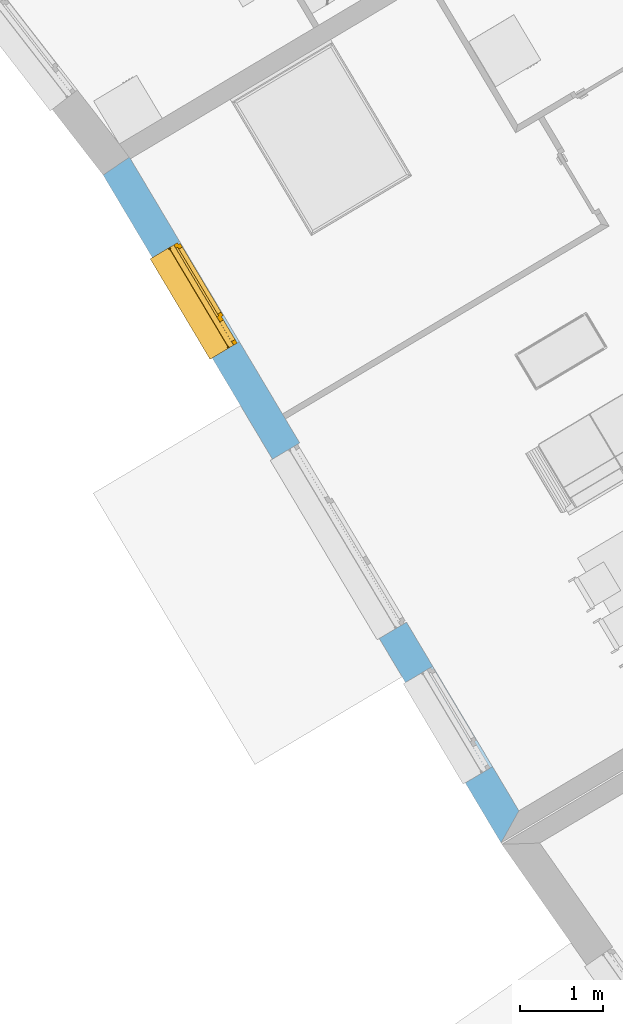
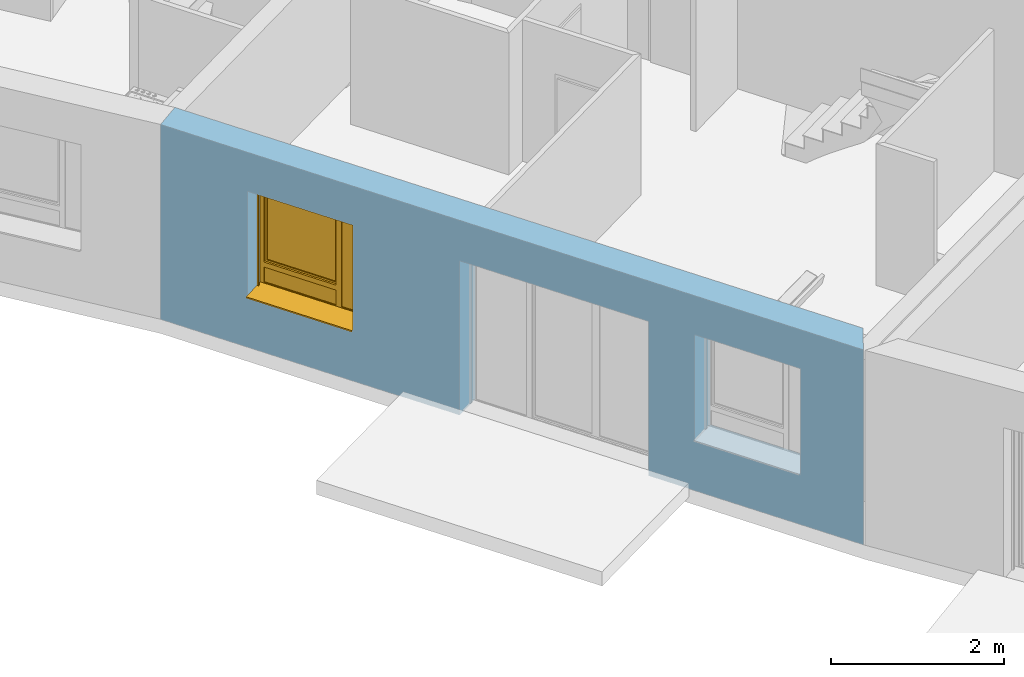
# One storey, part 39 of 195: 1 window, 3 openings, plus 1 element that does not belong to this part.
"""IFC2X3 building model written with IfcOpenShell, lengths in metres."""

from ifc_helpers import new_model, entity, si_unit, converted_unit, derived_unit, money_unit, direction, frame, origin_with_axes, place, context, subcontext, project, spatial, polyline, outline, extrude, open_shell, faceted_brep, surface_model, source, transform, mapped, material, layer, layer_set, layer_usage, type_object, element, fill, save


model = new_model("IFC2X3")

# Units and contexts
model_context = context("Model", 3, precision=1e-05, world=origin_with_axes(), true_north=direction((0.0, 1.0)))
body_context = subcontext(model_context, "Body", "Model", "MODEL_VIEW")
ifc_project = project(units=[si_unit("LENGTHUNIT", "METRE"), si_unit("AREAUNIT", "SQUARE_METRE"), si_unit("VOLUMEUNIT", "CUBIC_METRE"), converted_unit("PLANEANGLEUNIT", "DEGREE", entity("IfcPlaneAngleMeasure", 0.0174532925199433), si_unit("PLANEANGLEUNIT", "RADIAN"), dimensions=[0, 0, 0, 0, 0, 0, 0]), money_unit("CHF"), converted_unit("TIMEUNIT", "Year", entity("IfcTimeMeasure", 31557600.0), si_unit("TIMEUNIT", "SECOND"), dimensions=[0, 0, 1, 0, 0, 0, 0]), si_unit("MASSUNIT", "GRAM", prefix="KILO"), si_unit("THERMODYNAMICTEMPERATUREUNIT", "DEGREE_CELSIUS"), si_unit("LUMINOUSINTENSITYUNIT", "LUMEN"), si_unit("ENERGYUNIT", "JOULE", prefix="MEGA"), derived_unit("THERMALCONDUCTANCEUNIT", [(si_unit("POWERUNIT", "WATT"), 1), (si_unit("LENGTHUNIT", "METRE"), -1), (si_unit("THERMODYNAMICTEMPERATUREUNIT", "KELVIN"), -1)]), derived_unit("SPECIFICHEATCAPACITYUNIT", [(si_unit("ENERGYUNIT", "JOULE"), 1), (si_unit("MASSUNIT", "GRAM", prefix="KILO"), -1), (si_unit("THERMODYNAMICTEMPERATUREUNIT", "KELVIN"), -1)]), derived_unit("MASSDENSITYUNIT", [(si_unit("MASSUNIT", "GRAM", prefix="KILO"), 1), (si_unit("VOLUMEUNIT", "CUBIC_METRE"), -1)])], contexts=[model_context])

# Site, building, storey
site_placement = place(None, origin_with_axes())
site = spatial("IfcSite", under=ifc_project, at=site_placement, Name="Site", CompositionType="ELEMENT")
building_placement = place(site_placement, origin_with_axes())
building = spatial("IfcBuilding", under=site, at=building_placement, Name="Bâtiment", CompositionType="ELEMENT")
storey_placement = place(building_placement, origin_with_axes())
storey = spatial("IfcBuildingStorey", under=building, at=storey_placement, Name="rdc", CompositionType="ELEMENT", Elevation=0.0)

# Wall, openings, window
ifc_material_1 = material(Name="Parpaing 312445824")
ifc_layer_1 = layer(ifc_material_1, 0.22, ventilated="UNKNOWN")
ifc_material_2 = material(Name="Isolant styromousse 301821074")
ifc_layer_2 = layer(ifc_material_2, 0.16, ventilated="UNKNOWN")
ifc_layer_set = layer_set([ifc_layer_1, ifc_layer_2], Name="isol int 22+16 0836643197")
ifc_layer_usage = layer_usage(ifc_layer_set, "AXIS2", "NEGATIVE", 0.0)
wall_type = type_object("IfcWallType", Name="isol int 22+16 0836643197 380", PredefinedType="NOTDEFINED")
wall_placement = place(storey_placement, frame((9543.212814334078, -1055.206014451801, 57.7), z_axis=(0.0, 0.0, 1.0), x_axis=(-0.5118298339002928, 0.859086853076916, 0.0)))
wall = element("IfcWallStandardCase", 1, at=wall_placement, inside=storey, type_object=wall_type, material=ifc_layer_usage, Name="Mur-112", context=body_context, shape_type="SweptSolid", body=[
    extrude(outline(polyline([(0.2199999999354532, -0.3800000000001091), (9.335159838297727, -0.3799999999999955), (9.311906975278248, 0.0), (0.0, 0.0), (0.2199999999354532, -0.3800000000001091)])), origin_with_axes(), (0.0, 0.0, 1.0), 2.75),
])
opening_1_placement = place(wall_placement, frame((1.536079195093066, 0.0, 0.7000000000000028), z_axis=(0.0, 0.0, 1.0), x_axis=(1.0, 0.0, 0.0)))
element("IfcOpeningElement", 2, at=opening_1_placement, cuts=wall, Name="Fen-045", context=body_context, shape_type="Brep", body=[
    faceted_brep([(0.7000000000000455, -0.4800000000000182, 1.5), (-0.7000000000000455, -0.4800000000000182, 1.5), (-0.6999999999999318, -4.475503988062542, 1.5), (0.7000000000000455, -4.475503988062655, 1.5), (0.7000000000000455, -0.4800000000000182, 1.700000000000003), (-0.7000000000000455, -0.4800000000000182, 1.700000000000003), (-0.7000000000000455, -0.2999999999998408, 1.5), (-0.6999999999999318, -0.2999999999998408, 0.0), (-0.6999999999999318, -4.475503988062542, 0.0), (0.7000000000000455, -4.475503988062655, 0.0), (0.7000000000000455, -0.2999999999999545, 1.5), (0.7000000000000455, -0.3000000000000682, 0.0), (0.6999999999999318, -0.2200000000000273, 1.5), (0.6999999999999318, -0.2200000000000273, 1.700000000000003), (-0.7000000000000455, -0.2200000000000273, 1.700000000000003), (-0.7000000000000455, -0.2200000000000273, 1.5), (-0.7000000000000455, 4.095503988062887, 1.5), (-0.7000000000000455, 4.095503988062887, 0.0), (0.7000000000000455, 4.095503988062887, 0.0), (0.7000000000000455, 4.095503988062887, 1.5)], [[[0, 1, 2, 3]], [[1, 0, 4, 5]], [[1, 6, 7, 8, 2]], [[2, 8, 9, 3]], [[10, 0, 3, 9, 11]], [[0, 10, 12, 13, 4]], [[14, 5, 4, 13]], [[6, 1, 5, 14, 15]], [[6, 15, 16, 17, 7]], [[7, 11, 9, 8]], [[12, 10, 11, 18, 19]], [[12, 15, 14, 13]], [[15, 12, 19, 16]], [[19, 18, 17, 16]], [[11, 7, 17, 18]]]),
])
opening_2_placement = place(wall_placement, frame((7.460538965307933, 0.0, 0.7000000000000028), z_axis=(0.0, 0.0, 1.0), x_axis=(1.0, 0.0, 0.0)))
opening_2 = element("IfcOpeningElement", 3, at=opening_2_placement, cuts=wall, Name="Fen-045", context=body_context, shape_type="Brep", body=[
    faceted_brep([(0.7000000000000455, -0.4800000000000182, 1.5), (-0.6999999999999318, -0.4800000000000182, 1.5), (-0.6999999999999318, -4.475503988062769, 1.5), (0.7000000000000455, -4.475503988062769, 1.5), (0.7000000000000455, -0.4800000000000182, 1.700000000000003), (-0.6999999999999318, -0.4800000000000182, 1.700000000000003), (-0.6999999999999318, -0.2999999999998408, 1.5), (-0.6999999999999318, -0.2999999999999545, 0.0), (-0.6999999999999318, -4.475503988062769, 0.0), (0.7000000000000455, -4.475503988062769, 0.0), (0.7000000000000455, -0.2999999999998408, 1.5), (0.7000000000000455, -0.2999999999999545, 0.0), (0.6999999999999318, -0.2199999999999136, 1.5), (0.6999999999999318, -0.2199999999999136, 1.700000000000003), (-0.7000000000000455, -0.2200000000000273, 1.700000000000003), (-0.7000000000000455, -0.2200000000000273, 1.5), (-0.7000000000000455, 4.095503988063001, 1.5), (-0.7000000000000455, 4.095503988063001, 0.0), (0.7000000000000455, 4.095503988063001, 0.0), (0.7000000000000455, 4.095503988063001, 1.5)], [[[0, 1, 2, 3]], [[1, 0, 4, 5]], [[1, 6, 7, 8, 2]], [[2, 8, 9, 3]], [[10, 0, 3, 9, 11]], [[0, 10, 12, 13, 4]], [[14, 5, 4, 13]], [[6, 1, 5, 14, 15]], [[6, 15, 16, 17, 7]], [[7, 11, 9, 8]], [[12, 10, 11, 18, 19]], [[12, 15, 14, 13]], [[15, 12, 19, 16]], [[19, 18, 17, 16]], [[11, 7, 17, 18]]]),
])
opening_3_placement = place(wall_placement, frame((4.099942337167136, 0.0, 0.0), z_axis=(0.0, 0.0, 1.0), x_axis=(1.0, 0.0, 0.0)))
element("IfcOpeningElement", 4, at=opening_3_placement, cuts=wall, Name="Fen-045", context=body_context, shape_type="Brep", body=[
    faceted_brep([(1.250000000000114, -0.4800000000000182, 2.18), (-1.25, -0.4800000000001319, 2.18), (-1.25, -4.475503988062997, 2.18), (1.250000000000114, -4.475503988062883, 2.18), (1.250000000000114, -0.4800000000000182, 2.380000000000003), (-1.25, -0.4800000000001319, 2.380000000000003), (-1.25, -0.2999999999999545, 2.18), (-1.249999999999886, -0.3000000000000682, 0.0), (-1.25, -4.475503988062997, 0.0), (1.250000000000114, -4.475503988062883, 0.0), (1.250000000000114, -0.2999999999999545, 2.18), (1.250000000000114, -0.3000000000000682, 0.0), (1.25, -0.2200000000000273, 2.18), (1.25, -0.2200000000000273, 2.380000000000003), (-1.25, -0.2200000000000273, 2.380000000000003), (-1.25, -0.2200000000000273, 2.18), (-1.25, 4.095503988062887, 2.18), (-1.25, 4.095503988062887, 0.0), (1.25, 4.095503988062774, 0.0), (1.25, 4.095503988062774, 2.18)], [[[0, 1, 2, 3]], [[1, 0, 4, 5]], [[1, 6, 7, 8, 2]], [[2, 8, 9, 3]], [[10, 0, 3, 9, 11]], [[0, 10, 12, 13, 4]], [[4, 13, 14, 5]], [[6, 1, 5, 14, 15]], [[6, 15, 16, 17, 7]], [[7, 11, 9, 8]], [[12, 10, 11, 18, 19]], [[12, 15, 14, 13]], [[15, 12, 19, 16]], [[19, 18, 17, 16]], [[11, 7, 17, 18]]]),
])
window_style = type_object("IfcWindowStyle", Name="Fenêtre variable 27", ConstructionType="NOTDEFINED", OperationType="TRIPLE_PANEL_RIGHT", ParameterTakesPrecedence=False, Sizeable=False)
shared_shape = source(origin_with_axes(), body_context, "Body", "SurfaceModel", [
    surface_model("IfcShellBasedSurfaceModel", [(-0.7, -0.05100000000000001, 0.05), (-0.7, -0.05100000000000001, 0.04), (0.7, -0.05100000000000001, 0.04000000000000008), (0.7, -0.05100000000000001, 0.05000000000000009), (-0.7, -0.3799999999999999, 0.02899999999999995), (0.7, -0.3799999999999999, 0.02900000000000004), (-0.7, -0.3799999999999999, 0.008999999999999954), (0.7, -0.3799999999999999, 0.00900000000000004), (-0.7, -0.3699999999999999, 0.01899999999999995), (0.7, -0.3699999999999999, 0.01900000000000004)], [open_shell([[[0, 1, 2, 3]], [[1, 4, 5, 2]], [[4, 6, 7, 5]], [[6, 8, 9, 7]]])]),
    faceted_brep([(-0.7, -0.13, 1.7), (-0.697, -0.13, 1.7), (-0.697, 0.13, 1.7), (-0.7, 0.13, 1.7), (-0.7, -0.13, 1.5), (-0.697, -0.13, 1.5), (-0.697, 0.13, 1.5), (-0.7, 0.13, 1.5)], [[[0, 1, 2, 3]], [[4, 5, 1, 0]], [[1, 5, 6, 2]], [[3, 2, 6, 7]], [[0, 3, 7, 4]], [[7, 6, 5, 4]]]),
    faceted_brep([(0.6970000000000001, -0.1299999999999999, 1.7), (0.7000000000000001, -0.1299999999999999, 1.7), (0.7000000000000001, 0.1300000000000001, 1.7), (0.6970000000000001, 0.1300000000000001, 1.7), (0.6970000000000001, -0.1299999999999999, 1.5), (0.7000000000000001, -0.1299999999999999, 1.5), (0.7000000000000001, 0.1300000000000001, 1.5), (0.6970000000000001, 0.1300000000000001, 1.5)], [[[0, 1, 2, 3]], [[4, 5, 1, 0]], [[1, 5, 6, 2]], [[3, 2, 6, 7]], [[0, 3, 7, 4]], [[7, 6, 5, 4]]]),
    faceted_brep([(-0.697, -0.13, 1.5), (0.697, -0.1299999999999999, 1.5), (0.697, -0.1299999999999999, 1.7), (-0.697, -0.13, 1.7), (-0.697, -0.127, 1.5), (0.697, -0.1269999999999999, 1.5), (0.697, -0.1269999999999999, 1.697), (0.697, 0.1270000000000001, 1.697), (0.697, 0.1270000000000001, 1.503), (0.697, -0.1079999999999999, 1.503), (0.697, -0.1079999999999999, 1.5), (0.697, 0.1300000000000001, 1.5), (0.697, 0.1300000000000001, 1.7), (-0.697, 0.13, 1.7), (-0.697, 0.13, 1.5), (-0.697, -0.108, 1.5), (-0.697, -0.108, 1.503), (-0.697, 0.127, 1.503), (-0.697, 0.127, 1.697), (-0.697, -0.127, 1.697)], [[[0, 1, 2, 3]], [[4, 5, 1, 0]], [[1, 5, 6, 7, 8, 9, 10, 11, 12, 2]], [[3, 2, 12, 13]], [[0, 3, 13, 14, 15, 16, 17, 18, 19, 4]], [[19, 6, 5, 4]], [[18, 7, 6, 19]], [[17, 8, 7, 18]], [[16, 9, 8, 17]], [[15, 10, 9, 16]], [[14, 11, 10, 15]], [[13, 12, 11, 14]]]),
    faceted_brep([(-0.694, -0.08075423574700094, 1.585760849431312), (-0.694, -0.08200000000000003, 1.6), (-0.694, -0.0807542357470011, 1.614239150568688), (-0.694, -0.07705479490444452, 1.628045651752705), (-0.694, -0.07101408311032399, 1.641), (-0.694, -0.06281564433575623, 1.652708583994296), (-0.694, -0.05270858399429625, 1.662815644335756), (-0.694, -0.04100000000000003, 1.671014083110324), (-0.694, -0.02804565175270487, 1.677054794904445), (-0.694, -0.01423915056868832, 1.680754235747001), (-0.694, 0.0, 1.682), (-0.694, 0.01423915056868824, 1.680754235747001), (-0.694, 0.02804565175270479, 1.677054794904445), (-0.694, 0.04099999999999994, 1.671014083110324), (-0.694, 0.05270858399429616, 1.662815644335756), (-0.694, 0.06281564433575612, 1.652708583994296), (-0.694, 0.07101408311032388, 1.641), (-0.694, 0.0770547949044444, 1.628045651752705), (-0.694, 0.08075423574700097, 1.614239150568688), (-0.694, 0.0819999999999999, 1.6), (-0.694, 0.08075423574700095, 1.585760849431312), (-0.694, 0.07705479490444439, 1.571954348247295), (-0.694, 0.07101408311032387, 1.559), (-0.694, 0.06281564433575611, 1.547291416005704), (-0.694, 0.05270858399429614, 1.537184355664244), (-0.694, 0.04099999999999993, 1.528985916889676), (-0.694, 0.02804565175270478, 1.522945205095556), (-0.694, 0.01423915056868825, 1.519245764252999), (-0.694, 0.0, 1.518), (-0.694, -0.01423915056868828, 1.519245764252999), (-0.694, -0.02804565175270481, 1.522945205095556), (-0.694, -0.04099999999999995, 1.528985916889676), (-0.694, -0.05270858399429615, 1.537184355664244), (-0.694, -0.06281564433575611, 1.547291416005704), (-0.694, -0.07101408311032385, 1.559), (-0.694, -0.07705479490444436, 1.571954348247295), (0.694, -0.08075423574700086, 1.585760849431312), (0.694, -0.08199999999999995, 1.6), (0.694, -0.08075423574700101, 1.614239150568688), (0.694, -0.07705479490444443, 1.628045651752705), (0.694, -0.07101408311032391, 1.641), (0.694, -0.06281564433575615, 1.652708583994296), (0.694, -0.05270858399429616, 1.662815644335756), (0.694, -0.04099999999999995, 1.671014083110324), (0.694, -0.02804565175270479, 1.677054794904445), (0.694, -0.01423915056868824, 1.680754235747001), (0.694, 0.0, 1.682), (0.694, 0.01423915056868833, 1.680754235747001), (0.694, 0.02804565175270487, 1.677054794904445), (0.694, 0.04100000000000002, 1.671014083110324), (0.694, 0.05270858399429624, 1.662815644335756), (0.694, 0.0628156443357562, 1.652708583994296), (0.694, 0.07101408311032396, 1.641), (0.694, 0.07705479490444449, 1.628045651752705), (0.694, 0.08075423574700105, 1.614239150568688), (0.694, 0.08199999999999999, 1.6), (0.694, 0.08075423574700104, 1.585760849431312), (0.694, 0.07705479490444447, 1.571954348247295), (0.694, 0.07101408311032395, 1.559), (0.694, 0.06281564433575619, 1.547291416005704), (0.694, 0.05270858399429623, 1.537184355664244), (0.694, 0.04100000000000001, 1.528985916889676), (0.694, 0.02804565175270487, 1.522945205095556), (0.694, 0.01423915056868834, 1.519245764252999), (0.694, 0.0, 1.518), (0.694, -0.0142391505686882, 1.519245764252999), (0.694, -0.02804565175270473, 1.522945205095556), (0.694, -0.04099999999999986, 1.528985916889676), (0.694, -0.05270858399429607, 1.537184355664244), (0.694, -0.06281564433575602, 1.547291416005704), (0.694, -0.07101408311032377, 1.559), (0.694, -0.07705479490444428, 1.571954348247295)], [[[0, 1, 2, 3, 4, 5, 6, 7, 8, 9, 10, 11, 12, 13, 14, 15, 16, 17, 18, 19, 20, 21, 22, 23, 24, 25, 26, 27, 28, 29, 30, 31, 32, 33, 34, 35]], [[0, 36, 37, 1]], [[1, 37, 38, 2]], [[2, 38, 39, 3]], [[3, 39, 40, 4]], [[4, 40, 41, 5]], [[5, 41, 42, 6]], [[6, 42, 43, 7]], [[7, 43, 44, 8]], [[8, 44, 45, 9]], [[9, 45, 46, 10]], [[10, 46, 47, 11]], [[11, 47, 48, 12]], [[12, 48, 49, 13]], [[13, 49, 50, 14]], [[14, 50, 51, 15]], [[15, 51, 52, 16]], [[16, 52, 53, 17]], [[17, 53, 54, 18]], [[18, 54, 55, 19]], [[19, 55, 56, 20]], [[20, 56, 57, 21]], [[21, 57, 58, 22]], [[22, 58, 59, 23]], [[23, 59, 60, 24]], [[24, 60, 61, 25]], [[25, 61, 62, 26]], [[26, 62, 63, 27]], [[27, 63, 64, 28]], [[28, 64, 65, 29]], [[29, 65, 66, 30]], [[30, 66, 67, 31]], [[31, 67, 68, 32]], [[32, 68, 69, 33]], [[33, 69, 70, 34]], [[34, 70, 71, 35]], [[35, 71, 36, 0]], [[36, 71, 70, 69, 68, 67, 66, 65, 64, 63, 62, 61, 60, 59, 58, 57, 56, 55, 54, 53, 52, 51, 50, 49, 48, 47, 46, 45, 44, 43, 42, 41, 40, 39, 38, 37]]]),
    faceted_brep([(0.7, -0.105, 0.03), (0.7, -0.1049999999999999, 1.5), (0.7, -0.1299999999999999, 1.5), (0.7, -0.13, 0.03), (0.6749999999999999, -0.105, 0.03), (0.6749999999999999, -0.1049999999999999, 1.5), (0.6749999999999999, -0.1079999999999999, 1.5), (0.697, -0.1079999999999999, 1.5), (0.697, -0.1269999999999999, 1.5), (0.6749999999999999, -0.1269999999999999, 1.5), (0.6749999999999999, -0.1299999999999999, 1.5), (0.6749999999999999, -0.13, 0.03), (0.6749999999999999, -0.127, 0.03), (0.697, -0.127, 0.03), (0.697, -0.108, 0.03), (0.6749999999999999, -0.108, 0.03)], [[[0, 1, 2, 3]], [[4, 5, 1, 0]], [[1, 5, 6, 7, 8, 9, 10, 2]], [[3, 2, 10, 11]], [[0, 3, 11, 12, 13, 14, 15, 4]], [[15, 6, 5, 4]], [[14, 7, 6, 15]], [[13, 8, 7, 14]], [[12, 9, 8, 13]], [[11, 10, 9, 12]]]),
    faceted_brep([(-0.7, -0.105, 0.03), (-0.7, -0.13, 0.03), (-0.7, -0.1299999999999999, 1.5), (-0.7, -0.1049999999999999, 1.5), (-0.6749999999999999, -0.105, 0.03), (-0.6749999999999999, -0.108, 0.03), (-0.697, -0.108, 0.03), (-0.697, -0.127, 0.03), (-0.6749999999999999, -0.127, 0.03), (-0.6749999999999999, -0.13, 0.03), (-0.6749999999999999, -0.1299999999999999, 1.5), (-0.6749999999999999, -0.1269999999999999, 1.5), (-0.697, -0.1269999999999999, 1.5), (-0.697, -0.1079999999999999, 1.5), (-0.6749999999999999, -0.1079999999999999, 1.5), (-0.6749999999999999, -0.1049999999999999, 1.5)], [[[0, 1, 2, 3]], [[0, 4, 5, 6, 7, 8, 9, 1]], [[1, 9, 10, 2]], [[3, 2, 10, 11, 12, 13, 14, 15]], [[4, 0, 3, 15]], [[5, 4, 15, 14]], [[6, 5, 14, 13]], [[7, 6, 13, 12]], [[8, 7, 12, 11]], [[9, 8, 11, 10]]]),
    surface_model("IfcShellBasedSurfaceModel", [(-0.697, -0.115, 1.6), (0.697, -0.1149999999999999, 1.6), (0.697, -0.1199999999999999, 1.6), (-0.697, -0.12, 1.6), (-0.697, -0.115, 1.6), (-0.697, -0.12, 1.6), (0.697, -0.12, 1.6), (0.697, -0.1149999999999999, 1.6)], [open_shell([[[0, 1, 2, 3]], [[4, 5, 6, 7]]])]),
    faceted_brep([(-0.697, -0.115, 1.6), (0.697, -0.1149999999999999, 1.6), (0.697, -0.1166666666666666, 1.583333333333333), (-0.697, -0.1166666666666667, 1.583333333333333), (-0.697, -0.12, 1.6), (0.697, -0.1199999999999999, 1.6), (0.697, -0.1216666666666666, 1.583333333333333), (0.697, -0.1216666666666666, 1.566666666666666), (0.697, -0.1199999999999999, 1.55), (0.697, -0.1149999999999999, 1.55), (0.697, -0.1166666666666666, 1.566666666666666), (-0.697, -0.1166666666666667, 1.566666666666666), (-0.697, -0.115, 1.55), (-0.697, -0.12, 1.55), (-0.697, -0.1216666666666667, 1.566666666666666), (-0.697, -0.1216666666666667, 1.583333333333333)], [[[0, 1, 2, 3]], [[4, 5, 1, 0]], [[1, 5, 6, 7, 8, 9, 10, 2]], [[3, 2, 10, 11]], [[0, 3, 11, 12, 13, 14, 15, 4]], [[15, 6, 5, 4]], [[14, 7, 6, 15]], [[13, 8, 7, 14]], [[12, 9, 8, 13]], [[11, 10, 9, 12]]]),
    faceted_brep([(-0.697, -0.115, 1.55), (0.697, -0.1149999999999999, 1.55), (0.697, -0.1166666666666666, 1.533333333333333), (-0.697, -0.1166666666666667, 1.533333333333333), (-0.697, -0.12, 1.55), (0.697, -0.1199999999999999, 1.55), (0.697, -0.1216666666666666, 1.533333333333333), (0.697, -0.1216666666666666, 1.516666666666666), (0.697, -0.1199999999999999, 1.5), (0.697, -0.1149999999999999, 1.5), (0.697, -0.1166666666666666, 1.516666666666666), (-0.697, -0.1166666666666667, 1.516666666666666), (-0.697, -0.115, 1.5), (-0.697, -0.12, 1.5), (-0.697, -0.1216666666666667, 1.516666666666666), (-0.697, -0.1216666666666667, 1.533333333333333)], [[[0, 1, 2, 3]], [[4, 5, 1, 0]], [[1, 5, 6, 7, 8, 9, 10, 2]], [[3, 2, 10, 11]], [[0, 3, 11, 12, 13, 14, 15, 4]], [[15, 6, 5, 4]], [[14, 7, 6, 15]], [[13, 8, 7, 14]], [[12, 9, 8, 13]], [[11, 10, 9, 12]]]),
    faceted_brep([(-0.6749999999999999, 0.0, 1.45), (-0.7, 0.0, 1.45), (-0.7, -0.05000000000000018, 1.45), (-0.6499999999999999, -0.05000000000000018, 1.45), (-0.6499999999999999, -0.02500000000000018, 1.45), (-0.6749999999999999, -0.02500000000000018, 1.45), (-0.6749999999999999, 0.0, 0.3099999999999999), (-0.6499999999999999, 0.0, 0.3099999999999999), (-0.6499999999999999, 0.0, 0.265), (-0.6499999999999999, 0.0, 0.05000000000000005), (-0.7, 0.0, 0.05000000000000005), (-0.7, -0.05000000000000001, 0.05000000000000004), (-0.6499999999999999, -0.05000000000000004, 0.335), (-0.6499999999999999, -0.05000000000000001, 0.05000000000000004), (-0.6499999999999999, -0.05000000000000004, 0.265), (-0.6499999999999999, -0.02500000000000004, 0.335), (-0.6499999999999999, -0.02500000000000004, 0.3099999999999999), (-0.6749999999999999, -0.02500000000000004, 0.3099999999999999)], [[[0, 1, 2, 3, 4, 5]], [[6, 7, 8, 9, 10, 1, 0]], [[1, 10, 11, 2]], [[12, 3, 2, 11, 13, 14]], [[4, 3, 12, 15]], [[15, 16, 17, 5, 4]], [[5, 17, 6, 0]], [[6, 17, 16, 7]], [[16, 15, 12, 14, 8, 7]], [[9, 8, 14, 13]], [[10, 9, 13, 11]]]),
    faceted_brep([(0.3068894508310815, -0.02500000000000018, 1.45), (0.3068894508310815, -0.05000000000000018, 1.45), (0.3768894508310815, -0.05000000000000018, 1.45), (0.3768894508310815, 0.0, 1.45), (0.3318894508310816, 0.0, 1.45), (0.3318894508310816, -0.02500000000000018, 1.45), (0.3068894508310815, -0.02500000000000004, 0.335), (0.3068894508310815, -0.05000000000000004, 0.335), (0.3068894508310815, -0.05000000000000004, 0.265), (0.3068894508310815, -0.05000000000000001, 0.05000000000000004), (0.3768894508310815, -0.05000000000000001, 0.05000000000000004), (0.3768894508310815, 0.0, 0.05000000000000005), (0.3318894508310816, 0.0, 0.3099999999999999), (0.3068894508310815, 0.0, 0.05000000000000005), (0.3068894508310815, 0.0, 0.265), (0.3068894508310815, 0.0, 0.3099999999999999), (0.3318894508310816, -0.02500000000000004, 0.3099999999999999), (0.3068894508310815, -0.02500000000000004, 0.3099999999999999)], [[[0, 1, 2, 3, 4, 5]], [[6, 7, 1, 0]], [[8, 9, 10, 2, 1, 7]], [[11, 3, 2, 10]], [[12, 4, 3, 11, 13, 14, 15]], [[12, 16, 5, 4]], [[5, 16, 17, 6, 0]], [[17, 15, 14, 8, 7, 6]], [[14, 13, 9, 8]], [[13, 11, 10, 9]], [[15, 17, 16, 12]]]),
    faceted_brep([(-0.6499999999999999, -0.02500000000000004, 0.335), (-0.6499999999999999, -0.05000000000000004, 0.335), (0.3068894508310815, -0.05000000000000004, 0.335), (0.3068894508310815, -0.02500000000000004, 0.335), (-0.6499999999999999, -0.02500000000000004, 0.3099999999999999), (-0.6499999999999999, 0.0, 0.3099999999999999), (-0.6499999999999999, 0.0, 0.265), (-0.6499999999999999, -0.05000000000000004, 0.265), (0.3068894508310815, -0.05000000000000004, 0.265), (0.3068894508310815, -0.02500000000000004, 0.3099999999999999), (0.3068894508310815, 0.0, 0.265), (0.3068894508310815, 0.0, 0.3099999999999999)], [[[0, 1, 2, 3]], [[4, 5, 6, 7, 1, 0]], [[2, 1, 7, 8]], [[9, 3, 2, 8, 10, 11]], [[9, 4, 0, 3]], [[5, 4, 9, 11]], [[11, 10, 6, 5]], [[6, 10, 8, 7]]]),
    faceted_brep([(-0.6749999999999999, 0.0, 1.45), (-0.7, 0.0, 1.45), (-0.7, 0.0, 1.5), (0.7, 0.0, 1.5), (0.7, 0.0, 1.45), (0.6499999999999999, 0.0, 1.45), (0.3768894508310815, 0.0, 1.45), (0.3318894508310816, 0.0, 1.45), (0.3318894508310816, 0.0, 1.475), (-0.6749999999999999, 0.0, 1.475), (-0.6749999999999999, -0.02500000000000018, 1.45), (-0.6499999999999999, -0.02500000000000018, 1.45), (-0.6499999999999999, -0.05000000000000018, 1.45), (-0.7, -0.05000000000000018, 1.45), (-0.7, -0.05000000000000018, 1.5), (0.7, -0.05000000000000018, 1.5), (0.7, -0.05000000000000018, 1.45), (0.6499999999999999, -0.05000000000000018, 1.45), (0.3768894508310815, -0.05000000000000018, 1.45), (0.3318894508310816, -0.02500000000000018, 1.45), (0.3068894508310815, -0.05000000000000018, 1.45), (0.3068894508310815, -0.02500000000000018, 1.45), (0.3318894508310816, -0.02500000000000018, 1.475), (-0.6749999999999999, -0.02500000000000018, 1.475)], [[[0, 1, 2, 3, 4, 5, 6, 7, 8, 9]], [[10, 11, 12, 13, 1, 0]], [[2, 1, 13, 14]], [[3, 2, 14, 15]], [[4, 3, 15, 16]], [[5, 4, 16, 17]], [[6, 5, 17, 18]], [[19, 7, 6, 18, 20, 21]], [[7, 19, 22, 8]], [[8, 22, 23, 9]], [[9, 23, 10, 0]], [[21, 11, 10, 23, 22, 19]], [[21, 20, 12, 11]], [[18, 17, 16, 15, 14, 13, 12, 20]]]),
    faceted_brep([(0.6499999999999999, -0.05000000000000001, 0.05), (0.6499999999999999, 0.0, 0.05000000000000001), (0.7, 0.0, 0.05000000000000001), (0.7, -0.05000000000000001, 0.05), (0.6499999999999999, -0.05000000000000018, 1.45), (0.6499999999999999, 0.0, 1.45), (0.7, 0.0, 1.45), (0.7, -0.05000000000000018, 1.45)], [[[0, 1, 2, 3]], [[4, 5, 1, 0]], [[1, 5, 6, 2]], [[3, 2, 6, 7]], [[0, 3, 7, 4]], [[7, 6, 5, 4]]]),
    faceted_brep([(-0.6499999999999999, -0.05000000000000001, 0.05), (-0.6499999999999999, 0.0, 0.05000000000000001), (-0.7, 0.0, 0.05000000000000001), (-0.7, -0.05000000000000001, 0.05), (0.3068894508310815, -0.05000000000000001, 0.05), (0.3068894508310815, 0.0, 0.05000000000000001), (0.3768894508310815, 0.0, 0.05000000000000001), (0.6499999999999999, 0.0, 0.05000000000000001), (0.7, 0.0, 0.05000000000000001), (0.7, 0.0, 0.0), (-0.7, 0.0, 0.0), (-0.7, -0.05, 0.0), (0.7, -0.05, 0.0), (0.7, -0.05000000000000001, 0.05), (0.6499999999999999, -0.05000000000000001, 0.05), (0.3768894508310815, -0.05000000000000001, 0.05)], [[[0, 1, 2, 3]], [[4, 5, 1, 0]], [[1, 5, 6, 7, 8, 9, 10, 2]], [[3, 2, 10, 11]], [[0, 3, 11, 12, 13, 14, 15, 4]], [[15, 6, 5, 4]], [[14, 7, 6, 15]], [[13, 8, 7, 14]], [[12, 9, 8, 13]], [[11, 10, 9, 12]]]),
    faceted_brep([(-0.625, -0.02500000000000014, 1.425), (-0.625, 0.02499999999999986, 1.425), (-0.6749999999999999, 0.02499999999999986, 1.425), (-0.6749999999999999, -0.02500000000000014, 1.425), (-0.625, -0.02500000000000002, 0.3599999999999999), (-0.625, 0.02499999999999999, 0.3599999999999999), (-0.6749999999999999, 0.02499999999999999, 0.3599999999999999), (-0.6749999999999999, -0.02500000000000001, 0.3599999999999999)], [[[0, 1, 2, 3]], [[4, 5, 1, 0]], [[1, 5, 6, 2]], [[3, 2, 6, 7]], [[0, 3, 7, 4]], [[7, 6, 5, 4]]]),
    faceted_brep([(0.2818894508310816, -0.02500000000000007, 0.3599999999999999), (0.2818894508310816, 0.02499999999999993, 0.3599999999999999), (0.3318894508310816, 0.02499999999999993, 0.3599999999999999), (0.3318894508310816, -0.02500000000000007, 0.3599999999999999), (0.2818894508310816, -0.0250000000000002, 1.425), (0.2818894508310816, 0.0249999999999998, 1.425), (0.3318894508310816, 0.0249999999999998, 1.425), (0.3318894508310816, -0.0250000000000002, 1.425)], [[[0, 1, 2, 3]], [[4, 5, 1, 0]], [[1, 5, 6, 2]], [[3, 2, 6, 7]], [[0, 3, 7, 4]], [[7, 6, 5, 4]]]),
    faceted_brep([(0.3318894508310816, -0.02500000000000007, 0.3099999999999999), (0.3318894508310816, 0.02499999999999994, 0.3099999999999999), (0.3318894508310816, 0.02499999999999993, 0.3599999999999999), (0.3318894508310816, -0.02500000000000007, 0.3599999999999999), (-0.6749999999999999, -0.025, 0.3099999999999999), (-0.6749999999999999, 0.02499999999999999, 0.3099999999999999), (-0.6749999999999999, 0.02499999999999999, 0.3599999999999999), (-0.625, 0.02499999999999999, 0.3599999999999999), (0.2818894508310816, 0.02499999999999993, 0.3599999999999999), (0.2818894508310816, -0.02500000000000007, 0.3599999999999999), (-0.625, -0.02500000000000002, 0.3599999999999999), (-0.6749999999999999, -0.02500000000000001, 0.3599999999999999)], [[[0, 1, 2, 3]], [[4, 5, 1, 0]], [[1, 5, 6, 7, 8, 2]], [[3, 2, 8, 9]], [[0, 3, 9, 10, 11, 4]], [[11, 6, 5, 4]], [[10, 7, 6, 11]], [[9, 8, 7, 10]]]),
    faceted_brep([(-0.6749999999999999, -0.02500000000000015, 1.475), (-0.6749999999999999, 0.02499999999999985, 1.475), (-0.6749999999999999, 0.02499999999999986, 1.425), (-0.6749999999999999, -0.02500000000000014, 1.425), (0.3318894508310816, -0.02500000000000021, 1.475), (0.3318894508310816, 0.02499999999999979, 1.475), (0.3318894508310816, 0.0249999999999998, 1.425), (0.2818894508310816, 0.0249999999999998, 1.425), (-0.625, 0.02499999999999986, 1.425), (-0.625, -0.02500000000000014, 1.425), (0.2818894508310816, -0.0250000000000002, 1.425), (0.3318894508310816, -0.0250000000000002, 1.425)], [[[0, 1, 2, 3]], [[4, 5, 1, 0]], [[1, 5, 6, 7, 8, 2]], [[3, 2, 8, 9]], [[0, 3, 9, 10, 11, 4]], [[11, 6, 5, 4]], [[10, 7, 6, 11]], [[9, 8, 7, 10]]]),
    surface_model("IfcShellBasedSurfaceModel", [(-0.625, -0.01000000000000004, 0.3599999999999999), (0.2818894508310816, -0.01000000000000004, 0.3599999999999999), (0.2818894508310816, -0.01000000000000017, 1.425), (-0.625, -0.01000000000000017, 1.425)], [open_shell([[[0, 1, 2, 3]]])]),
    surface_model("IfcShellBasedSurfaceModel", [(-0.625, 0.009999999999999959, 0.3599999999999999), (-0.625, 0.00999999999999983, 1.425), (0.2818894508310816, 0.00999999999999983, 1.425), (0.2818894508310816, 0.009999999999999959, 0.3599999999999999)], [open_shell([[[0, 1, 2, 3]]])]),
    surface_model("IfcShellBasedSurfaceModel", [(0.3768894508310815, -0.035, 0.05), (0.65, -0.035, 0.05), (0.65, -0.03500000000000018, 1.45), (0.3768894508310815, -0.03500000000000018, 1.45)], [open_shell([[[0, 1, 2, 3]]])]),
    surface_model("IfcShellBasedSurfaceModel", [(0.3768894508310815, -0.015, 0.05), (0.3768894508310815, -0.01500000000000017, 1.45), (0.65, -0.01500000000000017, 1.45), (0.65, -0.015, 0.05)], [open_shell([[[0, 1, 2, 3]]])]),
    surface_model("IfcShellBasedSurfaceModel", [(-0.6499999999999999, -0.035, 0.05), (0.3068894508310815, -0.035, 0.05), (0.3068894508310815, -0.03500000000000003, 0.265), (-0.6499999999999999, -0.03500000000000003, 0.265)], [open_shell([[[0, 1, 2, 3]]])]),
    surface_model("IfcShellBasedSurfaceModel", [(-0.6499999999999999, -0.015, 0.05), (-0.6499999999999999, -0.01500000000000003, 0.265), (0.3068894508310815, -0.01500000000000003, 0.265), (0.3068894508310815, -0.015, 0.05)], [open_shell([[[0, 1, 2, 3]]])]),
])
window_placement = place(opening_2_placement, frame((0.7000000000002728, 0.0, 0.0), z_axis=(0.0, 0.0, 1.0), x_axis=(-1.0, 0.0, 0.0)))
window = element("IfcWindow", 5, at=window_placement, inside=storey, type_object=window_style, Name="Fen-045", OverallHeight=1.5, OverallWidth=1.4, context=body_context, shape_type="MappedRepresentation", body=[
    mapped(shared_shape, transform((0.7000000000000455, 0.3500000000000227, 0.0))),
])
fill(opening_2, window)

save(model, "model.ifc")
